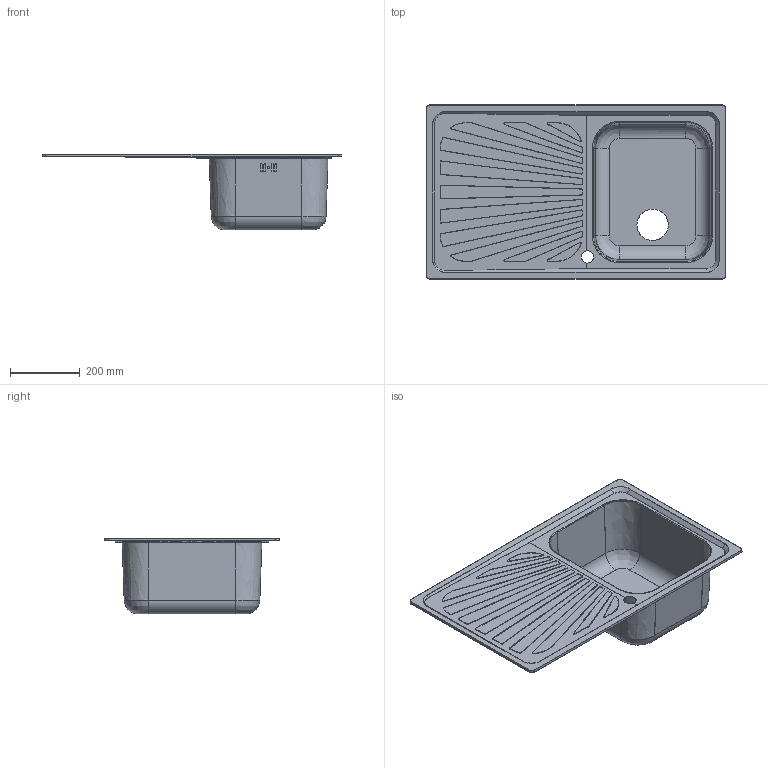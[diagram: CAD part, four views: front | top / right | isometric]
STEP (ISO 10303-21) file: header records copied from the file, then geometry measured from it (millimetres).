
FILE_DESCRIPTION((''),'1');
FILE_NAME('C:/Users/linop/Desktop/APM861D.stp','2018-02-27T08:32:42',(''),(''),'Spatial Interop R20 SP1','Kubotek KeyCreator V9.0.3 (16864)',' ');
FILE_SCHEMA(('CONFIG_CONTROL_DESIGN'));
Length unit declared in the file: millimetre
Products named in the file (2): 1; 2
Bounding box: 860 x 500 x 218 mm (x, y, z)
Volume: 422906.8 mm3; surface area: 1413326.9 mm2
Topology: 2 solids, 2 shells, 341 faces, 897 edges, 583 vertices
Faces by surface type: plane 159, cylinder 126, bspline 48, cone 8
Full cylindrical faces by diameter (mm): 35 x1, 90 x1
Entity records: 15189 total; most frequent: CARTESIAN_POINT 7079, ORIENTED_EDGE 1790, DIRECTION 1443, EDGE_CURVE 895, VERTEX_POINT 583, LINE 489, VECTOR 489, AXIS2_PLACEMENT_3D 477
